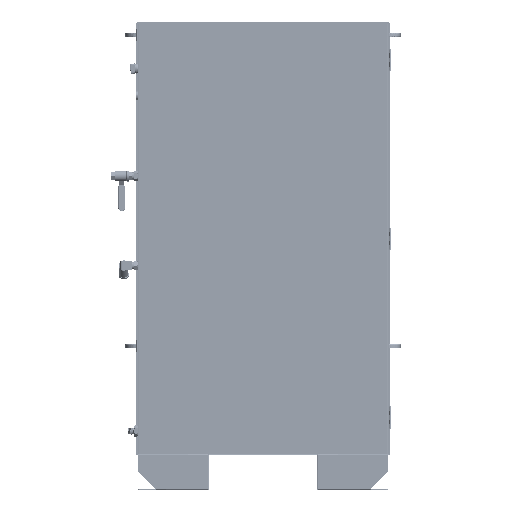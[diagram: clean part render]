
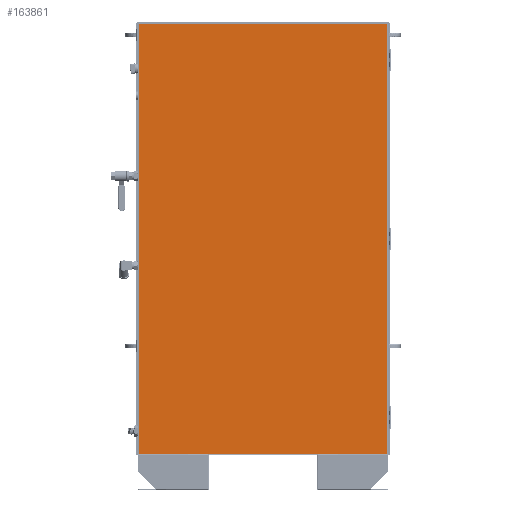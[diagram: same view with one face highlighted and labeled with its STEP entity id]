
A CAD part, left-side view. The second image highlights one B-rep face of the part: STEP entity #163861.
In plain terms, the highlighted planar face has unit normal (-1, 0, 0).
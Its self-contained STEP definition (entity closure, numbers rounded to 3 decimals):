
#1985=FACE_BOUND('',#24510,.T.);
#1986=FACE_BOUND('',#24511,.T.);
#1987=FACE_BOUND('',#24512,.T.);
#1988=FACE_BOUND('',#24513,.T.);
#1989=FACE_BOUND('',#24514,.T.);
#1990=FACE_BOUND('',#24515,.T.);
#10022=PLANE('',#174647);
#15826=FACE_OUTER_BOUND('',#24509,.T.);
#24509=EDGE_LOOP('',(#124532,#124533,#124534,#124535));
#24510=EDGE_LOOP('',(#124536));
#24511=EDGE_LOOP('',(#124537));
#24512=EDGE_LOOP('',(#124538));
#24513=EDGE_LOOP('',(#124539));
#24514=EDGE_LOOP('',(#124540));
#24515=EDGE_LOOP('',(#124541));
#35927=LINE('',#281896,#50960);
#36166=LINE('',#282821,#51199);
#36171=LINE('',#282838,#51204);
#36172=LINE('',#282839,#51205);
#50960=VECTOR('',#198115,39.37);
#51199=VECTOR('',#198814,39.37);
#51204=VECTOR('',#198831,39.37);
#51205=VECTOR('',#198832,39.37);
#62604=CIRCLE('',#174614,0.015);
#62605=CIRCLE('',#174616,0.015);
#62606=CIRCLE('',#174618,0.015);
#62607=CIRCLE('',#174620,0.015);
#62608=CIRCLE('',#174622,0.015);
#62615=CIRCLE('',#174648,0.015);
#71122=VERTEX_POINT('',#281893);
#71123=VERTEX_POINT('',#281895);
#71311=VERTEX_POINT('',#282765);
#71312=VERTEX_POINT('',#282769);
#71313=VERTEX_POINT('',#282773);
#71314=VERTEX_POINT('',#282777);
#71315=VERTEX_POINT('',#282781);
#71316=VERTEX_POINT('',#282818);
#71317=VERTEX_POINT('',#282820);
#71324=VERTEX_POINT('',#282840);
#90672=EDGE_CURVE('',#71122,#71123,#35927,.T.);
#90991=EDGE_CURVE('',#71311,#71311,#62604,.T.);
#90993=EDGE_CURVE('',#71312,#71312,#62605,.T.);
#90995=EDGE_CURVE('',#71313,#71313,#62606,.T.);
#90997=EDGE_CURVE('',#71314,#71314,#62607,.T.);
#90999=EDGE_CURVE('',#71315,#71315,#62608,.T.);
#91018=EDGE_CURVE('',#71316,#71317,#36166,.T.);
#91028=EDGE_CURVE('',#71316,#71123,#36171,.T.);
#91029=EDGE_CURVE('',#71122,#71317,#36172,.T.);
#91030=EDGE_CURVE('',#71324,#71324,#62615,.T.);
#124532=ORIENTED_EDGE('',*,*,#91018,.F.);
#124533=ORIENTED_EDGE('',*,*,#91028,.T.);
#124534=ORIENTED_EDGE('',*,*,#90672,.F.);
#124535=ORIENTED_EDGE('',*,*,#91029,.T.);
#124536=ORIENTED_EDGE('',*,*,#90991,.T.);
#124537=ORIENTED_EDGE('',*,*,#90993,.T.);
#124538=ORIENTED_EDGE('',*,*,#90995,.T.);
#124539=ORIENTED_EDGE('',*,*,#90997,.T.);
#124540=ORIENTED_EDGE('',*,*,#90999,.T.);
#124541=ORIENTED_EDGE('',*,*,#91030,.T.);
#163861=ADVANCED_FACE('',(#15826,#1985,#1986,#1987,#1988,#1989,#1990),#10022,
 .F.);
#174614=AXIS2_PLACEMENT_3D('',#282766,#198737,#198738);
#174616=AXIS2_PLACEMENT_3D('',#282770,#198742,#198743);
#174618=AXIS2_PLACEMENT_3D('',#282774,#198747,#198748);
#174620=AXIS2_PLACEMENT_3D('',#282778,#198752,#198753);
#174622=AXIS2_PLACEMENT_3D('',#282782,#198757,#198758);
#174647=AXIS2_PLACEMENT_3D('',#282837,#198829,#198830);
#174648=AXIS2_PLACEMENT_3D('',#282841,#198833,#198834);
#198115=DIRECTION('',(0.,1.,0.));
#198737=DIRECTION('center_axis',(1.,0.,0.));
#198738=DIRECTION('ref_axis',(0.,1.,0.));
#198742=DIRECTION('center_axis',(1.,0.,0.));
#198743=DIRECTION('ref_axis',(0.,1.,0.));
#198747=DIRECTION('center_axis',(1.,0.,0.));
#198748=DIRECTION('ref_axis',(0.,1.,0.));
#198752=DIRECTION('center_axis',(1.,0.,0.));
#198753=DIRECTION('ref_axis',(0.,1.,0.));
#198757=DIRECTION('center_axis',(1.,0.,0.));
#198758=DIRECTION('ref_axis',(0.,1.,0.));
#198814=DIRECTION('',(0.,-1.,0.));
#198829=DIRECTION('center_axis',(1.,0.,0.));
#198830=DIRECTION('ref_axis',(0.,1.,0.));
#198831=DIRECTION('',(0.,0.,-1.));
#198832=DIRECTION('',(0.,0.,1.));
#198833=DIRECTION('center_axis',(1.,0.,0.));
#198834=DIRECTION('ref_axis',(0.,1.,0.));
#281893=CARTESIAN_POINT('',(0.,0.113,4.062));
#281895=CARTESIAN_POINT('',(0.,27.887,4.062));
#281896=CARTESIAN_POINT('',(0.,0.,
4.062));
#282765=CARTESIAN_POINT('',(0.,25.61,6.437));
#282766=CARTESIAN_POINT('Origin',(0.,25.625,6.437));
#282769=CARTESIAN_POINT('',(0.,25.61,28.062));
#282770=CARTESIAN_POINT('Origin',(0.,25.625,28.062));
#282773=CARTESIAN_POINT('',(0.,25.61,49.687));
#282774=CARTESIAN_POINT('Origin',(0.,25.625,49.687));
#282777=CARTESIAN_POINT('',(0.,2.36,6.437));
#282778=CARTESIAN_POINT('Origin',(0.,2.375,
6.437));
#282781=CARTESIAN_POINT('',(0.,2.36,28.062));
#282782=CARTESIAN_POINT('Origin',(0.,2.375,
28.062));
#282818=CARTESIAN_POINT('',(0.,27.887,52.062));
#282820=CARTESIAN_POINT('',(0.,0.113,52.062));
#282821=CARTESIAN_POINT('',(0.,28.,52.062));
#282837=CARTESIAN_POINT('Origin',(0.,0.,
4.062));
#282838=CARTESIAN_POINT('',(0.,27.887,52.062));
#282839=CARTESIAN_POINT('',(0.,0.113,4.062));
#282840=CARTESIAN_POINT('',(0.,2.36,49.687));
#282841=CARTESIAN_POINT('Origin',(0.,2.375,
49.687));
